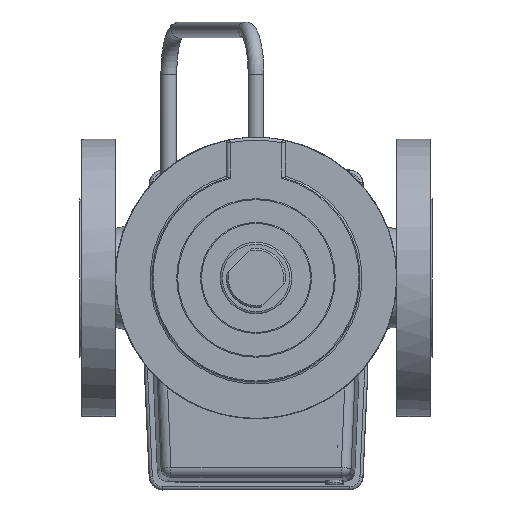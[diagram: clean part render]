
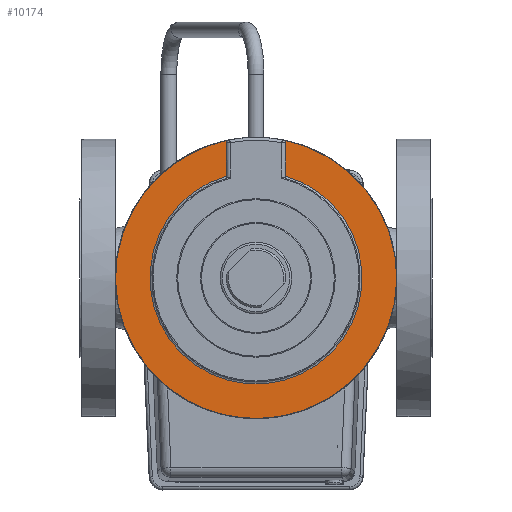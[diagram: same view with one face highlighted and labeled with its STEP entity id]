
A CAD part, front view. The second image highlights one B-rep face of the part: STEP entity #10174.
In plain terms, the highlighted planar face has unit normal (0, -1, 0).
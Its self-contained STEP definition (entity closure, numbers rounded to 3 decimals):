
#254=PLANE('',#11019);
#703=LINE('',#17307,#1141);
#704=LINE('',#17309,#1142);
#1141=VECTOR('',#13114,1000.);
#1142=VECTOR('',#13117,1000.);
#1708=CIRCLE('',#11013,53.5);
#1710=CIRCLE('',#11018,1.5);
#1711=CIRCLE('',#11020,1.5);
#1712=CIRCLE('',#11021,70.946);
#3595=ORIENTED_EDGE('',*,*,#4589,.T.);
#3596=ORIENTED_EDGE('',*,*,#4598,.T.);
#3597=ORIENTED_EDGE('',*,*,#4599,.T.);
#3598=ORIENTED_EDGE('',*,*,#4594,.T.);
#3599=ORIENTED_EDGE('',*,*,#4590,.T.);
#3600=ORIENTED_EDGE('',*,*,#4586,.T.);
#4586=EDGE_CURVE('',#5243,#5242,#1708,.T.);
#4589=EDGE_CURVE('',#5242,#5244,#703,.T.);
#4590=EDGE_CURVE('',#5245,#5243,#704,.T.);
#4594=EDGE_CURVE('',#5247,#5245,#1710,.T.);
#4598=EDGE_CURVE('',#5244,#5250,#1711,.T.);
#4599=EDGE_CURVE('',#5250,#5247,#1712,.T.);
#5242=VERTEX_POINT('',#17296);
#5243=VERTEX_POINT('',#17298);
#5244=VERTEX_POINT('',#17306);
#5245=VERTEX_POINT('',#17310);
#5247=VERTEX_POINT('',#17335);
#5250=VERTEX_POINT('',#17346);
#5934=EDGE_LOOP('',(#3595,#3596,#3597,#3598,#3599,#3600));
#6532=FACE_BOUND('',#5934,.T.);
#10174=ADVANCED_FACE('',(#6532),#254,.F.);
#11013=AXIS2_PLACEMENT_3D('',#17297,#13109,#13110);
#11018=AXIS2_PLACEMENT_3D('',#17334,#13123,#13124);
#11019=AXIS2_PLACEMENT_3D('',#17344,#13127,#13128);
#11020=AXIS2_PLACEMENT_3D('',#17345,#13129,#13130);
#11021=AXIS2_PLACEMENT_3D('',#17347,#13131,#13132);
#13109=DIRECTION('',(0.,1.,0.));
#13110=DIRECTION('',(0.,0.,-1.));
#13114=DIRECTION('',(0.,0.,1.));
#13117=DIRECTION('',(0.,0.,-1.));
#13123=DIRECTION('',(0.,1.,0.));
#13124=DIRECTION('',(0.,0.,-1.));
#13127=DIRECTION('',(0.,1.,0.));
#13128=DIRECTION('',(0.,0.,-1.));
#13129=DIRECTION('',(0.,1.,0.));
#13130=DIRECTION('',(0.,0.,-1.));
#13131=DIRECTION('',(0.,-1.,0.));
#13132=DIRECTION('',(0.,0.,-1.));
#17296=CARTESIAN_POINT('',(75.,-16.9,-38.16));
#17297=CARTESIAN_POINT('',(90.,-16.9,-89.515));
#17298=CARTESIAN_POINT('',(105.,-16.9,-38.16));
#17306=CARTESIAN_POINT('',(75.,-16.9,-21.338));
#17307=CARTESIAN_POINT('',(75.,-16.9,-89.515));
#17309=CARTESIAN_POINT('',(105.,-16.9,-89.515));
#17310=CARTESIAN_POINT('',(105.,-16.9,-21.338));
#17334=CARTESIAN_POINT('',(103.5,-16.9,-21.338));
#17335=CARTESIAN_POINT('',(104.139,-16.9,-19.981));
#17344=CARTESIAN_POINT('',(90.,-16.9,-89.515));
#17345=CARTESIAN_POINT('',(76.5,-16.9,-21.338));
#17346=CARTESIAN_POINT('',(75.787,-16.9,-20.018));
#17347=CARTESIAN_POINT('',(90.054,-16.9,-89.515));
